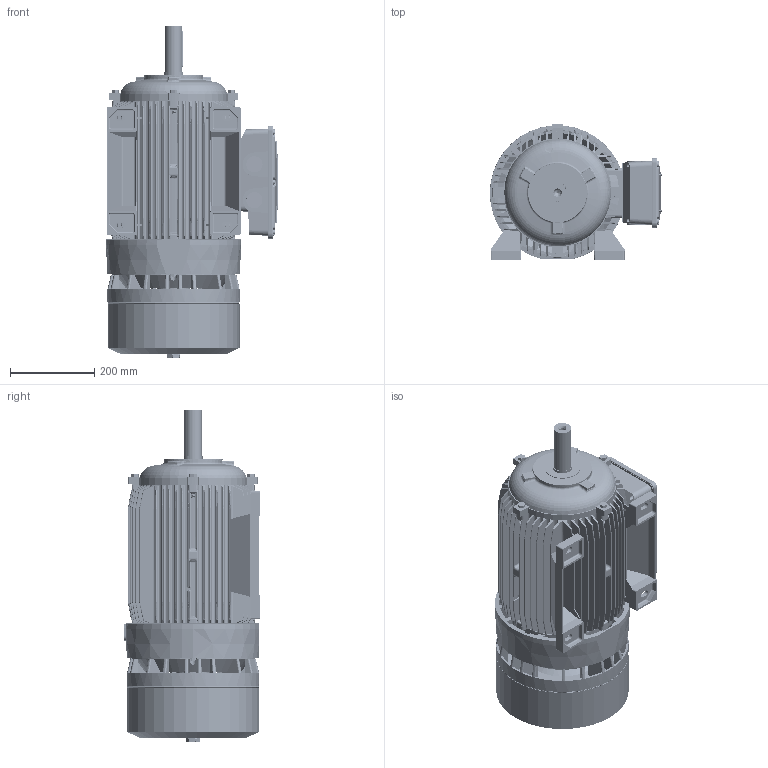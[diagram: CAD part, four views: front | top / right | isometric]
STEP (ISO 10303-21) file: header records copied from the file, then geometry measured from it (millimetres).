
FILE_DESCRIPTION (( 'STEP AP214' ), '1' );
FILE_NAME ('M02LA0010.STEP', '2018-11-19T17:03:06', ( '' ), ( '' ), 'SwSTEP 2.0', 'SolidWorks 2018', '' );
FILE_SCHEMA (( 'AUTOMOTIVE_DESIGN' ));
Length unit declared in the file: millimetre
Products named in the file (17): Vite Testa Bombata M6x20; Guarnizione Coperchio Sc. Mor. BA 160-180-200 - D6BA0100; Coperchio Scatola Morsettiera Doppia BA 160 - 180 - 200 - D6A60099; Scatola morsettiera 160; O-ring Freno BA 160; Convogliatore con pista di attrito BA 160 P2 -  D6A80199; Chiavetta 160; Scudo Lato Comando B3 160 - D6AB0094; Vite a Testa Esagona 20 MB gr. 132-200 - DGAS0094; Scudo Lato Freno BA 160 P1 - D6A90399; Cuffia serie BA 160; Albero BA 160 L; Carcassa 160 L B3; M02LA0010; Scatola Morsettiera Doppia BA 160 - 180 - 200 - Completa; Vite a testa esagonale M10x50; Guarnizione Basetta BA 160-180 - 200 - D6BB0000
Assembly tree (24 placements, depth 3):
  M02LA0010
    Carcassa 160 L B3
    Albero BA 160 L
    Cuffia serie BA 160
    Scudo Lato Freno BA 160 P1 - D6A90399
    Vite a Testa Esagona 20 MB gr. 132-200 - DGAS0094
    Scudo Lato Comando B3 160 - D6AB0094
    Chiavetta 160
    Convogliatore con pista di attrito BA 160 P2 -  D6A80199
    O-ring Freno BA 160
    Scatola Morsettiera Doppia BA 160 - 180 - 200 - Completa
      Scatola morsettiera 160
      Coperchio Scatola Morsettiera Doppia BA 160 - 180 - 200 - D6A60099
      Guarnizione Coperchio Sc. Mor. BA 160-180-200 - D6BA0100
      Vite Testa Bombata M6x20  x6
      Guarnizione Basetta BA 160-180 - 200 - D6BB0000
    Vite a testa esagonale M10x50  x4
Bounding box: 409.49 x 325 x 788.48 mm (x, y, z)
Volume: 10410259.9 mm3; surface area: 3330266.2 mm2
Topology: 23 solids, 23 shells, 4284 faces, 11751 edges, 7371 vertices
Faces by surface type: cylinder 1704, plane 1029, bspline 647, cone 438, torus 416, sphere 50
Entity records: 207367 total; most frequent: CARTESIAN_POINT 121496, ORIENTED_EDGE 19198, DIRECTION 15253, EDGE_CURVE 9599, VERTEX_POINT 6049, AXIS2_PLACEMENT_3D 5948, EDGE_LOOP 3834, ADVANCED_FACE 3593
